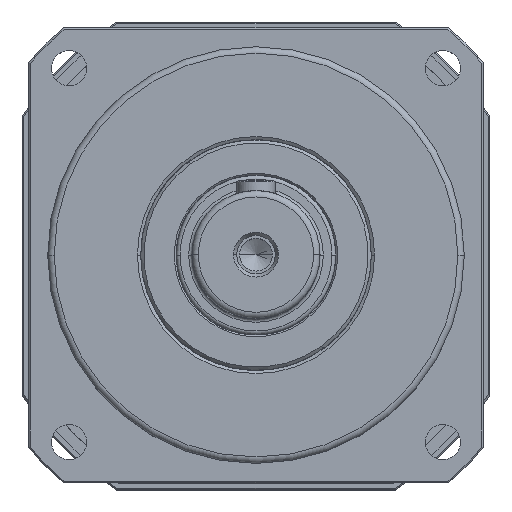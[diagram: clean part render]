
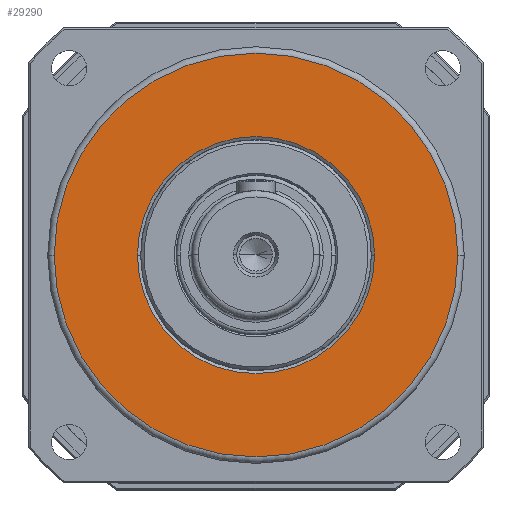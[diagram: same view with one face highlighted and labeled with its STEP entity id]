
A CAD part, top view. The second image highlights one B-rep face of the part: STEP entity #29290.
In plain terms, the highlighted planar face has unit normal (0, 0, 1).
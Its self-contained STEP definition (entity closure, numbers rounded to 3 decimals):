
#24 = EDGE_CURVE ( 'NONE', #23376, #7492, #20263, .T. ) ;
#95 = PLANE ( 'NONE',  #27263 ) ;
#414 = AXIS2_PLACEMENT_3D ( 'NONE', #11842, #28609, #26201 ) ;
#1719 = CARTESIAN_POINT ( 'NONE',  ( 0., 0., 15. ) ) ;
#4609 = EDGE_CURVE ( 'NONE', #5965, #26754, #5915, .T. ) ;
#4786 = DIRECTION ( 'NONE',  ( 1., 0., 0. ) ) ;
#5393 = EDGE_LOOP ( 'NONE', ( #31305, #27396 ) ) ;
#5563 = CIRCLE ( 'NONE', #414, 63. ) ;
#5915 = CIRCLE ( 'NONE', #23972, 37. ) ;
#5965 = VERTEX_POINT ( 'NONE', #14947 ) ;
#6760 = EDGE_LOOP ( 'NONE', ( #17700, #14061 ) ) ;
#6856 = AXIS2_PLACEMENT_3D ( 'NONE', #11764, #9331, #4786 ) ;
#7381 = CARTESIAN_POINT ( 'NONE',  ( -37., 0., 15. ) ) ;
#7492 = VERTEX_POINT ( 'NONE', #30541 ) ;
#7513 = DIRECTION ( 'NONE',  ( 1., 0., 0. ) ) ;
#9331 = DIRECTION ( 'NONE',  ( 0., 0., 1. ) ) ;
#9469 = FACE_OUTER_BOUND ( 'NONE', #5393, .T. ) ;
#11054 = CARTESIAN_POINT ( 'NONE',  ( -63., 0., 15. ) ) ;
#11764 = CARTESIAN_POINT ( 'NONE',  ( 0., 0., 15. ) ) ;
#11842 = CARTESIAN_POINT ( 'NONE',  ( 0., 0., 15. ) ) ;
#12382 = FACE_BOUND ( 'NONE', #6760, .T. ) ;
#14061 = ORIENTED_EDGE ( 'NONE', *, *, #31304, .T. ) ;
#14633 = DIRECTION ( 'NONE',  ( 1., 0., 0. ) ) ;
#14947 = CARTESIAN_POINT ( 'NONE',  ( 37., 0., 15. ) ) ;
#16910 = DIRECTION ( 'NONE',  ( 0., 0., -1. ) ) ;
#17700 = ORIENTED_EDGE ( 'NONE', *, *, #4609, .T. ) ;
#18994 = DIRECTION ( 'NONE',  ( 1., 0., 0. ) ) ;
#19317 = CARTESIAN_POINT ( 'NONE',  ( 0., 0., 15. ) ) ;
#19783 = CARTESIAN_POINT ( 'NONE',  ( 0., 0., 15. ) ) ;
#20263 = CIRCLE ( 'NONE', #6856, 63. ) ;
#21405 = DIRECTION ( 'NONE',  ( 0., 0., -1. ) ) ;
#22696 = EDGE_CURVE ( 'NONE', #7492, #23376, #5563, .T. ) ;
#23376 = VERTEX_POINT ( 'NONE', #11054 ) ;
#23972 = AXIS2_PLACEMENT_3D ( 'NONE', #1719, #21405, #18994 ) ;
#25249 = CIRCLE ( 'NONE', #27841, 37. ) ;
#26201 = DIRECTION ( 'NONE',  ( 1., 0., 0. ) ) ;
#26754 = VERTEX_POINT ( 'NONE', #7381 ) ;
#27263 = AXIS2_PLACEMENT_3D ( 'NONE', #19783, #29635, #7513 ) ;
#27396 = ORIENTED_EDGE ( 'NONE', *, *, #24, .T. ) ;
#27841 = AXIS2_PLACEMENT_3D ( 'NONE', #19317, #16910, #14633 ) ;
#28609 = DIRECTION ( 'NONE',  ( 0., 0., 1. ) ) ;
#29290 = ADVANCED_FACE ( 'NONE', ( #12382, #9469 ), #95, .T. ) ;
#29635 = DIRECTION ( 'NONE',  ( 0., 0., 1. ) ) ;
#30541 = CARTESIAN_POINT ( 'NONE',  ( 63., 0., 15. ) ) ;
#31304 = EDGE_CURVE ( 'NONE', #26754, #5965, #25249, .T. ) ;
#31305 = ORIENTED_EDGE ( 'NONE', *, *, #22696, .T. ) ;
